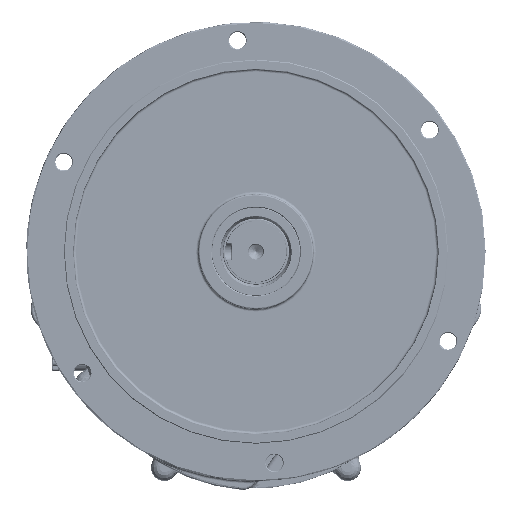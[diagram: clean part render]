
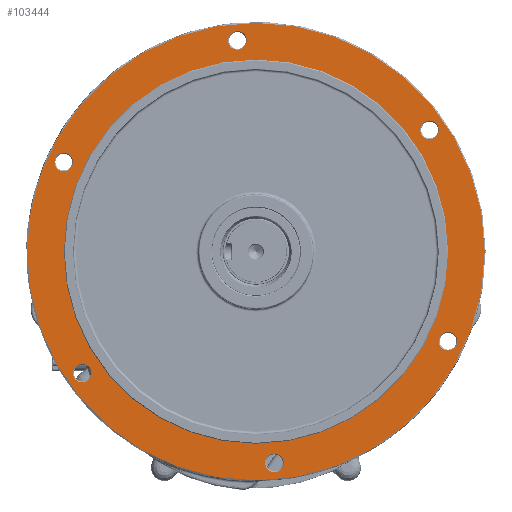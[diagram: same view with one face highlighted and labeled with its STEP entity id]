
A CAD part, front view. The second image highlights one B-rep face of the part: STEP entity #103444.
In plain terms, the highlighted planar face has unit normal (0, -1, 0).
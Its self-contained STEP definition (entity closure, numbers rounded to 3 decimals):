
#5867=FACE_BOUND('',#16670,.T.);
#5868=FACE_BOUND('',#16671,.T.);
#5869=FACE_BOUND('',#16672,.T.);
#5870=FACE_BOUND('',#16673,.T.);
#5871=FACE_BOUND('',#16674,.T.);
#5872=FACE_BOUND('',#16675,.T.);
#5873=FACE_BOUND('',#16676,.T.);
#6903=PLANE('',#111705);
#10277=FACE_OUTER_BOUND('',#16669,.T.);
#16669=EDGE_LOOP('',(#75694));
#16670=EDGE_LOOP('',(#75695));
#16671=EDGE_LOOP('',(#75696));
#16672=EDGE_LOOP('',(#75697));
#16673=EDGE_LOOP('',(#75698));
#16674=EDGE_LOOP('',(#75699));
#16675=EDGE_LOOP('',(#75700));
#16676=EDGE_LOOP('',(#75701));
#35986=CIRCLE('',#111474,259.);
#35989=CIRCLE('',#111479,217.5);
#36091=CIRCLE('',#111672,10.5);
#36098=CIRCLE('',#111686,10.5);
#36101=CIRCLE('',#111691,10.5);
#36104=CIRCLE('',#111696,10.5);
#36107=CIRCLE('',#111701,10.5);
#36110=CIRCLE('',#111706,10.5);
#42937=VERTEX_POINT('',#170999);
#42940=VERTEX_POINT('',#171008);
#43110=VERTEX_POINT('',#173050);
#43119=VERTEX_POINT('',#173174);
#43122=VERTEX_POINT('',#173184);
#43125=VERTEX_POINT('',#173194);
#43128=VERTEX_POINT('',#173204);
#43131=VERTEX_POINT('',#173214);
#54307=EDGE_CURVE('',#42937,#42937,#35986,.T.);
#54312=EDGE_CURVE('',#42940,#42940,#35989,.T.);
#54600=EDGE_CURVE('',#43110,#43110,#36091,.T.);
#54618=EDGE_CURVE('',#43119,#43119,#36098,.T.);
#54623=EDGE_CURVE('',#43122,#43122,#36101,.T.);
#54628=EDGE_CURVE('',#43125,#43125,#36104,.T.);
#54633=EDGE_CURVE('',#43128,#43128,#36107,.T.);
#54638=EDGE_CURVE('',#43131,#43131,#36110,.T.);
#75694=ORIENTED_EDGE('',*,*,#54307,.F.);
#75695=ORIENTED_EDGE('',*,*,#54633,.F.);
#75696=ORIENTED_EDGE('',*,*,#54623,.F.);
#75697=ORIENTED_EDGE('',*,*,#54600,.F.);
#75698=ORIENTED_EDGE('',*,*,#54312,.F.);
#75699=ORIENTED_EDGE('',*,*,#54618,.F.);
#75700=ORIENTED_EDGE('',*,*,#54628,.F.);
#75701=ORIENTED_EDGE('',*,*,#54638,.F.);
#103444=ADVANCED_FACE('',(#10277,#5867,#5868,#5869,#5870,#5871,#5872,#5873),
#6903,.T.);
#111474=AXIS2_PLACEMENT_3D('',#171000,#128862,#128863);
#111479=AXIS2_PLACEMENT_3D('',#171010,#128874,#128875);
#111672=AXIS2_PLACEMENT_3D('',#173051,#129374,#129375);
#111686=AXIS2_PLACEMENT_3D('',#173175,#129406,#129407);
#111691=AXIS2_PLACEMENT_3D('',#173185,#129418,#129419);
#111696=AXIS2_PLACEMENT_3D('',#173195,#129430,#129431);
#111701=AXIS2_PLACEMENT_3D('',#173205,#129442,#129443);
#111705=AXIS2_PLACEMENT_3D('',#173213,#129452,#129453);
#111706=AXIS2_PLACEMENT_3D('',#173215,#129454,#129455);
#128862=DIRECTION('center_axis',(0.,1.,0.));
#128863=DIRECTION('ref_axis',(-1.,0.,0.));
#128874=DIRECTION('center_axis',(0.,-1.,0.));
#128875=DIRECTION('ref_axis',(-1.,0.,0.));
#129374=DIRECTION('center_axis',(0.,-1.,0.));
#129375=DIRECTION('ref_axis',(-1.,0.,0.));
#129406=DIRECTION('center_axis',(0.,-1.,0.));
#129407=DIRECTION('ref_axis',(-0.5,0.,0.866));
#129418=DIRECTION('center_axis',(0.,-1.,0.));
#129419=DIRECTION('ref_axis',(0.5,0.,0.866));
#129430=DIRECTION('center_axis',(0.,-1.,0.));
#129431=DIRECTION('ref_axis',(1.,0.,0.));
#129442=DIRECTION('center_axis',(0.,-1.,0.));
#129443=DIRECTION('ref_axis',(0.5,0.,-0.866));
#129452=DIRECTION('center_axis',(0.,-1.,0.));
#129453=DIRECTION('ref_axis',(0.,0.,-1.));
#129454=DIRECTION('center_axis',(0.,-1.,0.));
#129455=DIRECTION('ref_axis',(-0.5,0.,-0.866));
#170999=CARTESIAN_POINT('',(259.228,-235.728,63.25));
#171000=CARTESIAN_POINT('Origin',(0.228,-235.728,63.25));
#171008=CARTESIAN_POINT('',(217.728,-235.728,63.25));
#171010=CARTESIAN_POINT('Origin',(0.228,-235.728,63.25));
#173050=CARTESIAN_POINT('',(-10.189,-235.728,302.337));
#173051=CARTESIAN_POINT('Origin',(-20.689,-235.728,302.337));
#173174=CARTESIAN_POINT('',(202.075,-235.728,191.815));
#173175=CARTESIAN_POINT('Origin',(196.825,-235.728,200.908));
#173184=CARTESIAN_POINT('',(212.492,-235.728,-47.272));
#173185=CARTESIAN_POINT('Origin',(217.742,-235.728,-38.178));
#173194=CARTESIAN_POINT('',(10.646,-235.728,-175.837));
#173195=CARTESIAN_POINT('Origin',(21.146,-235.728,-175.837));
#173204=CARTESIAN_POINT('',(-201.618,-235.728,-65.315));
#173205=CARTESIAN_POINT('Origin',(-196.368,-235.728,-74.408));
#173213=CARTESIAN_POINT('Origin',(0.228,-235.728,63.252));
#173214=CARTESIAN_POINT('',(-212.035,-235.728,173.772));
#173215=CARTESIAN_POINT('Origin',(-217.285,-235.728,164.678));
